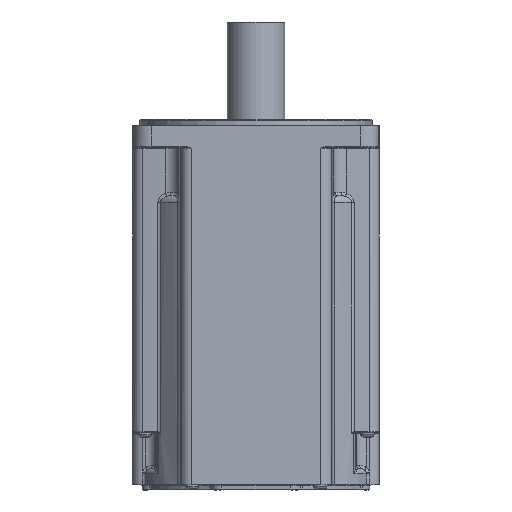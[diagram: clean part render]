
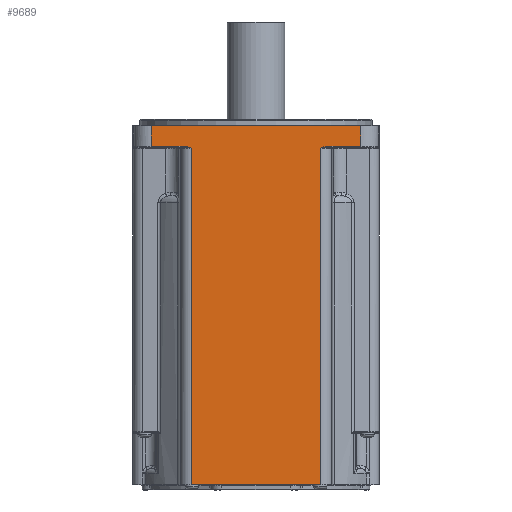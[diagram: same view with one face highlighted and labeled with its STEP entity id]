
A CAD part, front view. The second image highlights one B-rep face of the part: STEP entity #9689.
In plain terms, the highlighted planar face has unit normal (0, -1, 0).
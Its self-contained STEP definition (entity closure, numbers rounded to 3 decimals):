
#2708 = CARTESIAN_POINT ( 'NONE',  ( 58.485, -69., -12.554 ) ) ;
#2709 = DIRECTION ( 'NONE',  ( 0., 0., 1. ) ) ;
#2710 = VECTOR ( 'NONE', #2709, 1000. ) ;
#2711 = CARTESIAN_POINT ( 'NONE',  ( 58.485, -69., -13.05 ) ) ;
#2712 = LINE ( 'NONE', #2711, #2710 ) ;
#9625 = ORIENTED_EDGE ( 'NONE', *, *, #24412, .T. ) ;
#9626 = ORIENTED_EDGE ( 'NONE', *, *, #9627, .T. ) ;
#9627 = EDGE_CURVE ( 'NONE', #24410, #9628, #30152, .T. ) ;
#9628 = VERTEX_POINT ( 'NONE', #30148 ) ;
#9669 = VERTEX_POINT ( 'NONE', #30164 ) ;
#9670 = ORIENTED_EDGE ( 'NONE', *, *, #9671, .T. ) ;
#9671 = EDGE_CURVE ( 'NONE', #9669, #9682, #30056, .T. ) ;
#9682 = VERTEX_POINT ( 'NONE', #29982 ) ;
#9683 = ORIENTED_EDGE ( 'NONE', *, *, #9684, .T. ) ;
#9684 = EDGE_CURVE ( 'NONE', #9682, #24406, #29981, .T. ) ;
#9689 = ADVANCED_FACE ( 'NONE', ( #29977 ), #30230, .T. ) ;
#9690 = EDGE_LOOP ( 'NONE', ( #9773, #9876, #9699, #9701, #9670, #9683, #9625, #9626, #9850, #9749 ) ) ;
#9699 = ORIENTED_EDGE ( 'NONE', *, *, #9700, .T. ) ;
#9700 = EDGE_CURVE ( 'NONE', #9878, #9879, #30365, .T. ) ;
#9701 = ORIENTED_EDGE ( 'NONE', *, *, #9702, .T. ) ;
#9702 = EDGE_CURVE ( 'NONE', #9879, #9669, #30189, .T. ) ;
#9749 = ORIENTED_EDGE ( 'NONE', *, *, #9750, .T. ) ;
#9750 = EDGE_CURVE ( 'NONE', #9852, #9775, #30297, .T. ) ;
#9773 = ORIENTED_EDGE ( 'NONE', *, *, #9774, .T. ) ;
#9774 = EDGE_CURVE ( 'NONE', #9775, #9875, #2712, .T. ) ;
#9775 = VERTEX_POINT ( 'NONE', #2708 ) ;
#9850 = ORIENTED_EDGE ( 'NONE', *, *, #9851, .T. ) ;
#9851 = EDGE_CURVE ( 'NONE', #9628, #9852, #30725, .T. ) ;
#9852 = VERTEX_POINT ( 'NONE', #30686 ) ;
#9875 = VERTEX_POINT ( 'NONE', #30697 ) ;
#9876 = ORIENTED_EDGE ( 'NONE', *, *, #9877, .T. ) ;
#9877 = EDGE_CURVE ( 'NONE', #9875, #9878, #30790, .T. ) ;
#9878 = VERTEX_POINT ( 'NONE', #30786 ) ;
#9879 = VERTEX_POINT ( 'NONE', #30785 ) ;
#19776 = CARTESIAN_POINT ( 'NONE',  ( -36.185, -69., -201.74 ) ) ;
#19832 = DIRECTION ( 'NONE',  ( 1., 0., 0. ) ) ;
#19833 = VECTOR ( 'NONE', #19832, 1000. ) ;
#19834 = CARTESIAN_POINT ( 'NONE',  ( -41.683, -69., -201.74 ) ) ;
#19836 = LINE ( 'NONE', #19834, #19833 ) ;
#19840 = CARTESIAN_POINT ( 'NONE',  ( 36.185, -69., -201.74 ) ) ;
#24406 = VERTEX_POINT ( 'NONE', #19776 ) ;
#24410 = VERTEX_POINT ( 'NONE', #19840 ) ;
#24412 = EDGE_CURVE ( 'NONE', #24406, #24410, #19836, .T. ) ;
#29977 = FACE_OUTER_BOUND ( 'NONE', #9690, .T. ) ;
#29978 = DIRECTION ( 'NONE',  ( 0., 0., -1. ) ) ;
#29979 = VECTOR ( 'NONE', #29978, 1000. ) ;
#29980 = CARTESIAN_POINT ( 'NONE',  ( -36.185, -69., -201.74 ) ) ;
#29981 = LINE ( 'NONE', #29980, #29979 ) ;
#29982 = CARTESIAN_POINT ( 'NONE',  ( -36.185, -69., -13.546 ) ) ;
#30039 = CARTESIAN_POINT ( 'NONE',  ( -36.185, -69., -13.546 ) ) ;
#30040 = CARTESIAN_POINT ( 'NONE',  ( -36.461, -69., -13.428 ) ) ;
#30041 = CARTESIAN_POINT ( 'NONE',  ( -36.74, -69., -13.309 ) ) ;
#30042 = CARTESIAN_POINT ( 'NONE',  ( -37.3, -69., -13.085 ) ) ;
#30043 = CARTESIAN_POINT ( 'NONE',  ( -37.582, -69., -12.978 ) ) ;
#30044 = CARTESIAN_POINT ( 'NONE',  ( -38.155, -69., -12.791 ) ) ;
#30045 = CARTESIAN_POINT ( 'NONE',  ( -38.446, -69., -12.71 ) ) ;
#30046 = CARTESIAN_POINT ( 'NONE',  ( -39.034, -69., -12.592 ) ) ;
#30047 = CARTESIAN_POINT ( 'NONE',  ( -39.331, -69., -12.554 ) ) ;
#30048 = CARTESIAN_POINT ( 'NONE',  ( -39.635, -69., -12.554 ) ) ;
#30056 = B_SPLINE_CURVE_WITH_KNOTS ( 'NONE', 3,
 ( #30048, #30047, #30046, #30045, #30044, #30043, #30042, #30041, #30040, #30039 ),
 .UNSPECIFIED., .F., .F.,
 ( 4, 2, 2, 2, 4 ),
 ( 0., 0.001, 0.002, 0.003, 0.004 ),
 .UNSPECIFIED. ) ;
#30148 = CARTESIAN_POINT ( 'NONE',  ( 36.185, -69., -13.546 ) ) ;
#30149 = DIRECTION ( 'NONE',  ( 0., 0., 1. ) ) ;
#30150 = VECTOR ( 'NONE', #30149, 1000. ) ;
#30151 = CARTESIAN_POINT ( 'NONE',  ( 36.185, -69., -13.05 ) ) ;
#30152 = LINE ( 'NONE', #30151, #30150 ) ;
#30164 = CARTESIAN_POINT ( 'NONE',  ( -39.635, -69., -12.554 ) ) ;
#30186 = DIRECTION ( 'NONE',  ( 1., 0., 0. ) ) ;
#30187 = VECTOR ( 'NONE', #30186, 1000. ) ;
#30188 = CARTESIAN_POINT ( 'NONE',  ( -36.185, -69., -12.554 ) ) ;
#30189 = LINE ( 'NONE', #30188, #30187 ) ;
#30190 = DIRECTION ( 'NONE',  ( 0., 0., -1. ) ) ;
#30191 = VECTOR ( 'NONE', #30190, 1000. ) ;
#30192 = CARTESIAN_POINT ( 'NONE',  ( -58.485, -69., -13.05 ) ) ;
#30229 = AXIS2_PLACEMENT_3D ( 'NONE', #30280, #30279, #30278 ) ;
#30230 = PLANE ( 'NONE',  #30229 ) ;
#30278 = DIRECTION ( 'NONE',  ( 0., 0., -1. ) ) ;
#30279 = DIRECTION ( 'NONE',  ( 0., -1., 0. ) ) ;
#30280 = CARTESIAN_POINT ( 'NONE',  ( -69., -69., -13.05 ) ) ;
#30294 = DIRECTION ( 'NONE',  ( 1., 0., 0. ) ) ;
#30295 = VECTOR ( 'NONE', #30294, 1000. ) ;
#30296 = CARTESIAN_POINT ( 'NONE',  ( 58.485, -69., -12.554 ) ) ;
#30297 = LINE ( 'NONE', #30296, #30295 ) ;
#30365 = LINE ( 'NONE', #30192, #30191 ) ;
#30686 = CARTESIAN_POINT ( 'NONE',  ( 39.635, -69., -12.554 ) ) ;
#30697 = CARTESIAN_POINT ( 'NONE',  ( 58.485, -69., -1.04 ) ) ;
#30724 = CARTESIAN_POINT ( 'NONE',  ( 36.185, -69., -13.546 ) ) ;
#30725 = B_SPLINE_CURVE_WITH_KNOTS ( 'NONE', 3,
 ( #30724, #30822, #30821, #30820, #30819, #30818, #30817, #30816 ),
 .UNSPECIFIED., .F., .F.,
 ( 4, 2, 2, 4 ),
 ( 0., 0.002, 0.003, 0.004 ),
 .UNSPECIFIED. ) ;
#30785 = CARTESIAN_POINT ( 'NONE',  ( -58.485, -69., -12.554 ) ) ;
#30786 = CARTESIAN_POINT ( 'NONE',  ( -58.485, -69., -1.04 ) ) ;
#30787 = DIRECTION ( 'NONE',  ( -1., 0., 0. ) ) ;
#30788 = VECTOR ( 'NONE', #30787, 1000. ) ;
#30789 = CARTESIAN_POINT ( 'NONE',  ( -69., -69., -1.04 ) ) ;
#30790 = LINE ( 'NONE', #30789, #30788 ) ;
#30816 = CARTESIAN_POINT ( 'NONE',  ( 39.635, -69., -12.554 ) ) ;
#30817 = CARTESIAN_POINT ( 'NONE',  ( 39.331, -69., -12.554 ) ) ;
#30818 = CARTESIAN_POINT ( 'NONE',  ( 39.034, -69., -12.592 ) ) ;
#30819 = CARTESIAN_POINT ( 'NONE',  ( 38.446, -69., -12.71 ) ) ;
#30820 = CARTESIAN_POINT ( 'NONE',  ( 38.155, -69., -12.791 ) ) ;
#30821 = CARTESIAN_POINT ( 'NONE',  ( 37.295, -69., -13.072 ) ) ;
#30822 = CARTESIAN_POINT ( 'NONE',  ( 36.74, -69., -13.309 ) ) ;
